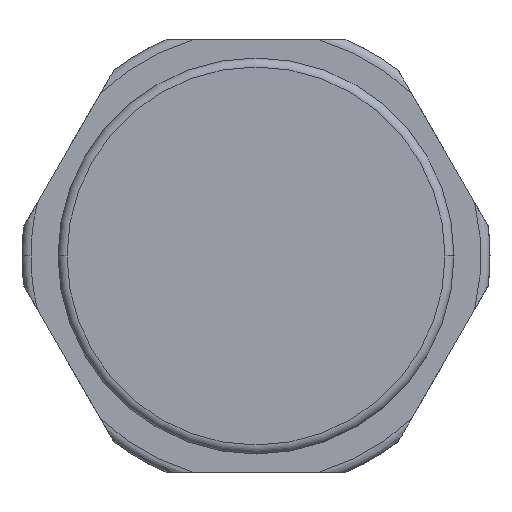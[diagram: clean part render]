
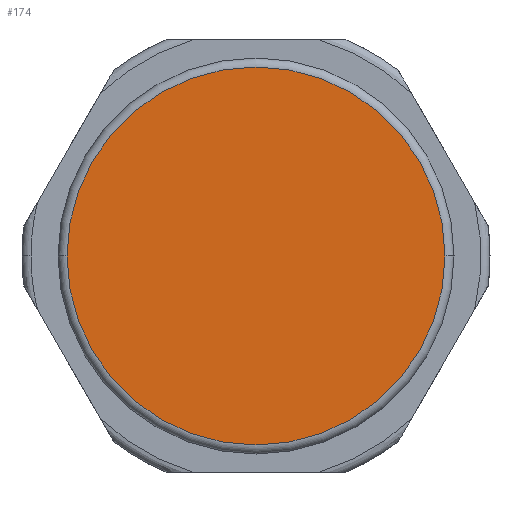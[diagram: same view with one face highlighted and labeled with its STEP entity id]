
A CAD part, front view. The second image highlights one B-rep face of the part: STEP entity #174.
In plain terms, the highlighted planar face has unit normal (0, -1, 0).
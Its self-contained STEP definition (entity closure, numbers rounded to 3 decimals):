
#10 = PLANE ( 'NONE',  #619 ) ;
#142 = DIRECTION ( 'NONE',  ( 0., 1., 0. ) ) ;
#174 = ADVANCED_FACE ( 'NONE', ( #698 ), #10, .T. ) ;
#269 = ORIENTED_EDGE ( 'NONE', *, *, #295, .F. ) ;
#295 = EDGE_CURVE ( 'NONE', #1083, #1356, #643, .T. ) ;
#498 = CARTESIAN_POINT ( 'NONE',  ( 10.5, 0., 0. ) ) ;
#499 = EDGE_CURVE ( 'NONE', #1356, #1083, #621, .T. ) ;
#507 = AXIS2_PLACEMENT_3D ( 'NONE', #562, #682, #1283 ) ;
#532 = DIRECTION ( 'NONE',  ( 0., -1., 0. ) ) ;
#556 = EDGE_LOOP ( 'NONE', ( #809, #269 ) ) ;
#559 = DIRECTION ( 'NONE',  ( -1., 0., 0. ) ) ;
#562 = CARTESIAN_POINT ( 'NONE',  ( 0., 0., 0. ) ) ;
#574 = AXIS2_PLACEMENT_3D ( 'NONE', #669, #142, #559 ) ;
#575 = CARTESIAN_POINT ( 'NONE',  ( 0., 0., 0. ) ) ;
#582 = DIRECTION ( 'NONE',  ( 1., 0., 0. ) ) ;
#619 = AXIS2_PLACEMENT_3D ( 'NONE', #575, #532, #582 ) ;
#621 = CIRCLE ( 'NONE', #574, 10.5 ) ;
#643 = CIRCLE ( 'NONE', #507, 10.5 ) ;
#669 = CARTESIAN_POINT ( 'NONE',  ( 0., 0., 0. ) ) ;
#682 = DIRECTION ( 'NONE',  ( 0., 1., 0. ) ) ;
#698 = FACE_OUTER_BOUND ( 'NONE', #556, .T. ) ;
#809 = ORIENTED_EDGE ( 'NONE', *, *, #499, .F. ) ;
#1083 = VERTEX_POINT ( 'NONE', #498 ) ;
#1283 = DIRECTION ( 'NONE',  ( -1., 0., 0. ) ) ;
#1322 = CARTESIAN_POINT ( 'NONE',  ( -10.5, 0., 0. ) ) ;
#1356 = VERTEX_POINT ( 'NONE', #1322 ) ;
